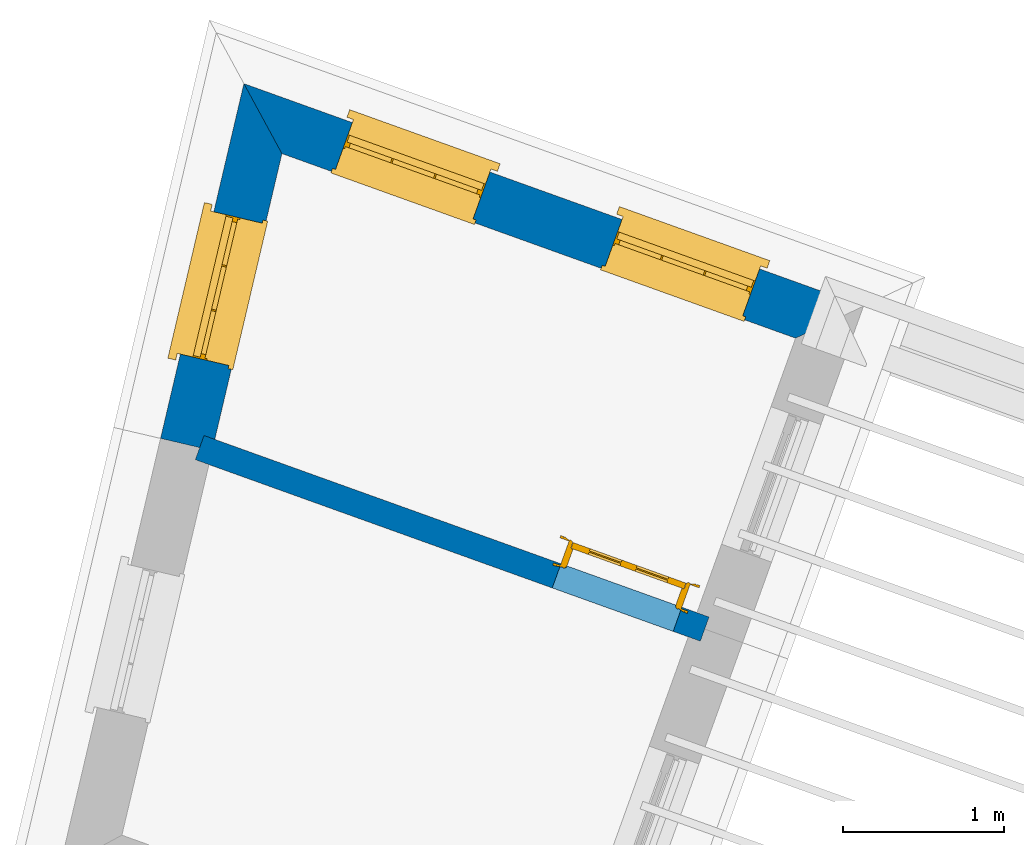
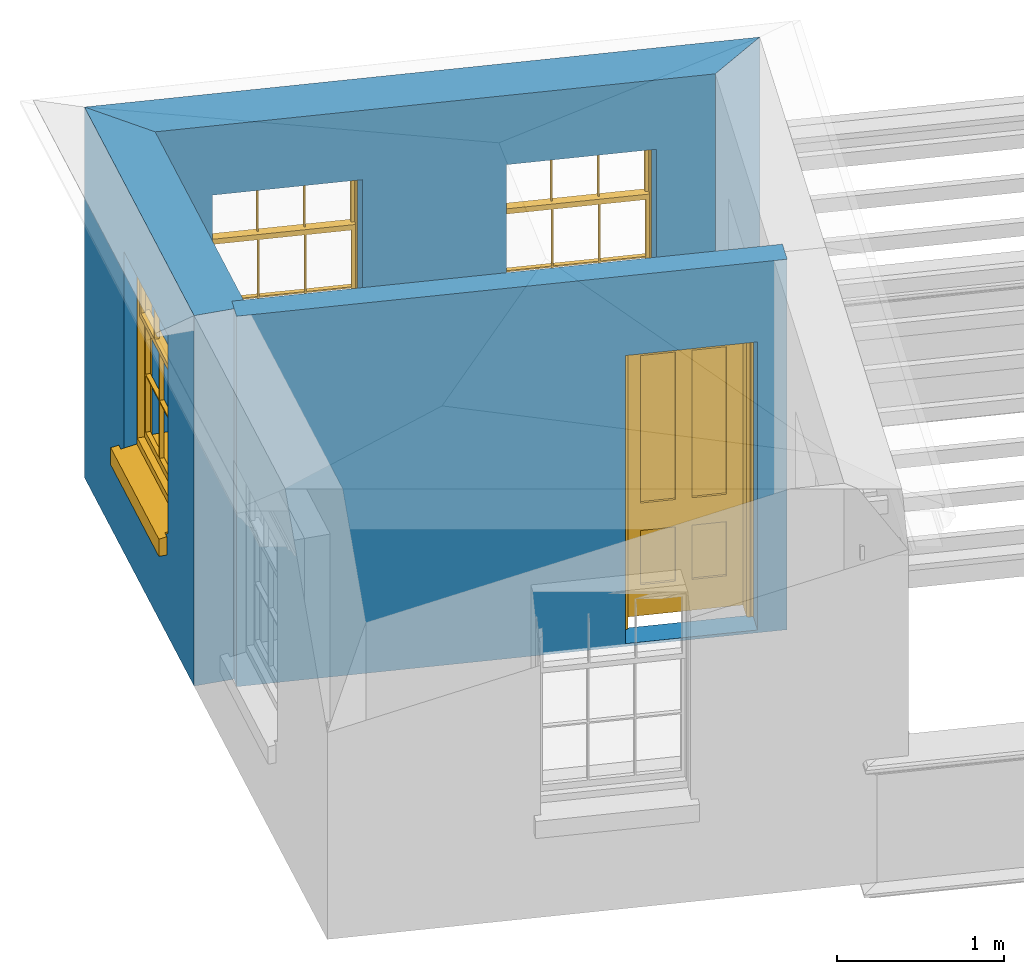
# One storey, part 3 of 5: 3 walls, 3 windows, 1 door, 4 openings.
"""IFC4 building model written with IfcOpenShell, lengths in metres."""

from ifc_helpers import new_model, si_unit, frame, origin, origin_with_axes, place, context, subcontext, project, spatial, polyline, outline, extrude, faceted_brep, source, transform, mapped, material, layer, layer_set, layer_usage, type_object, type_shapes, element, fill, save


model = new_model("IFC4")

# Units and contexts
model_context = context("Model", 3, world=origin_with_axes())
body_context = subcontext(model_context, "Body", "Model", "MODEL_VIEW")
ifc_project = project(units=[si_unit("PLANEANGLEUNIT", "RADIAN"), si_unit("MASSUNIT", "GRAM", prefix="KILO"), si_unit("FORCEUNIT", "NEWTON", prefix="KILO"), si_unit("LENGTHUNIT", "METRE"), si_unit("AREAUNIT", "SQUARE_METRE"), si_unit("VOLUMEUNIT", "CUBIC_METRE")], contexts=[model_context, model_context])

# Sites, building, storey
site_1_placement = place(None, origin_with_axes())
site_1 = spatial("IfcSite", under=ifc_project, at=site_1_placement, Name="Tamar")
site_2_placement = place(site_1_placement, origin_with_axes())
site_2 = spatial("IfcSite", under=site_1, at=site_2_placement, Name="Site plot-22", CompositionType="ELEMENT")
building_placement = place(None, origin_with_axes())
building = spatial("IfcBuilding", under=site_2, at=building_placement, Name="Building plot-22", CompositionType="ELEMENT")
storey_placement = place(None, frame((0.0, 0.0, 30.5), z_axis=(0.0, 0.0, 1.0), x_axis=(1.0, 0.0, 0.0)))
storey = spatial("IfcBuildingStorey", under=building, at=storey_placement, Name="plot-22 2", CompositionType="ELEMENT", Elevation=30.5)

# Wall, openings, windows
ifc_material_1 = material(Name="Masonry")
ifc_layer_1 = layer(ifc_material_1, 0.33, ventilated=False)
ifc_layer_set_1 = layer_set([ifc_layer_1], Name="exterior_0.08_0.25")
ifc_layer_usage_1 = layer_usage(ifc_layer_set_1, "AXIS2", "POSITIVE", -0.25)
wall_type_1 = type_object("IfcWallType", Name="exterior_0.08_0.25", PredefinedType="SOLIDWALL", material=ifc_layer_set_1)
wall_1_placement = place(storey_placement, frame((254.429625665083, 275.023925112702, 0.0), z_axis=(0.0, 0.0, 1.0), x_axis=(-0.941087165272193, 0.338164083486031, 0.0)))
wall_1 = element("IfcWall", 1, at=wall_1_placement, inside=storey, type_object=wall_type_1, material=ifc_layer_usage_1, Name="exterior", context=body_context, shape_type="SweptSolid", body=[
    extrude(outline(polyline([(0.0800000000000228, 0.0800000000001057), (-0.249999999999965, -0.250000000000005), (3.8477904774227, -0.24999999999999), (3.47775004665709, 0.0800000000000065), (0.0800000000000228, 0.0800000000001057)])), origin_with_axes(), (0.0, 0.0, 1.0), 2.7),
])
opening_1_placement = place(wall_1_placement, frame((0.43686420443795, 0.0, 0.75)))
opening_1 = element("IfcOpeningElement", 2, at=opening_1_placement, cuts=wall_1, Name="My Opening", ObjectType="Opening", context=body_context, shape_type="SweptSolid", body=[
    extrude(outline(polyline([(0.0, -0.269999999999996), (0.909999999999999, -0.270000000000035), (0.909999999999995, 1.09999999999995), (-4.27435864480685e-15, 1.09999999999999), (0.0, -0.269999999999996)])), origin_with_axes(), (0.0, 0.0, 1.0), 1.445),
])
opening_2_placement = place(wall_1_placement, frame((2.22059261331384, 0.0, 0.75)))
opening_2 = element("IfcOpeningElement", 3, at=opening_2_placement, cuts=wall_1, Name="My Opening", ObjectType="Opening", context=body_context, shape_type="SweptSolid", body=[
    extrude(outline(polyline([(0.0, -0.269999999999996), (0.909999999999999, -0.270000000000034), (0.909999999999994, 1.09999999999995), (-3.99680288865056e-15, 1.09999999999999), (0.0, -0.269999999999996)])), origin_with_axes(), (0.0, 0.0, 1.0), 1.445),
])
window_type = type_object("IfcWindowType", Name="sash_shorter", PartitioningType="DOUBLE_PANEL_HORIZONTAL", PredefinedType="NOTDEFINED")
shared_shape_1 = source(origin(), body_context, "Body", "Brep", [
    faceted_brep([(0.876875, 0.145, 0.999097), (0.876875, 0.145, 1.411875), (0.9, 0.145, 1.435), (0.033125, 0.145, 1.411875), (0.033125, 0.145, 0.999097), (0.01, 0.145, 1.435), (0.033125, 0.115, 1.411875), (0.01, 0.115, 1.435), (0.033125, 0.115, 0.999097), (0.876875, 0.115, 1.411875), (0.876875, 0.115, 0.999097), (0.9, 0.115, 1.435), (0.033125, 0.145, 0.960972), (0.01, 0.145, 0.960972), (0.033125, 0.145, 0.548195), (0.876875, 0.145, 0.960972), (0.876875, 0.145, 0.548195), (0.9, 0.145, 0.960972), (0.876875, 0.145, 0.538195), (0.876875, 0.145, 0.125417), (0.9, 0.145, 0.077167), (0.033125, 0.145, 0.125417), (0.033125, 0.145, 0.538195), (0.01, 0.145, 0.077167), (0.9, 0.115, 0.960972), (0.01, 0.115, 0.960972), (-0.0425, 0.0, 0.01), (-0.0425, -0.05, 0.001667), (0.0, 0.0, 0.01), (0.9525, 0.0, 0.01), (0.91, 0.0, 0.01), (0.9525, -0.05, 0.001667), (-0.02, 0.33, 0.077167), (0.0, 0.33, 0.077167), (-0.02, 0.36, 0.077167), (0.0, 0.19, 0.077167), (0.01, 0.19, 0.077167), (0.91, 0.19, 0.077167), (0.91, 0.33, 0.077167), (0.9, 0.19, 0.077167), (0.93, 0.33, 0.077167), (0.93, 0.36, 0.077167), (0.01, 0.145, 0.999097), (0.01, 0.175, 0.999097), (0.9, 0.145, 0.999097), (0.9, 0.175, 0.999097), (0.876875, 0.175, 0.125417), (0.876875, 0.175, 0.538195), (0.9, 0.175, 0.077167), (0.876875, 0.175, 0.548195), (0.876875, 0.175, 0.960972), (0.033125, 0.175, 0.125417), (0.01, 0.175, 0.077167), (0.033125, 0.175, 0.538195), (0.033125, 0.175, 0.960972), (0.033125, 0.175, 0.548195), (-0.02, 0.33, 0.052167), (-0.02, 0.36, 0.052167), (0.93, 0.36, 0.052167), (0.93, 0.33, 0.052167), (0.91, 0.33, 0.052167), (0.0, 0.33, 0.052167), (0.91, 0.1, 0.026667), (0.0, 0.1, 0.026667), (-0.0425, -0.05, -0.123333), (0.9525, -0.05, -0.123333), (-0.0425, 0.0, -0.123333), (0.9525, 0.0, -0.123333), (0.01, 0.19, 1.435), (0.9, 0.19, 1.435), (0.0, 0.19, 1.445), (0.91, 0.19, 1.445), (0.01, 0.1, 0.077167), (0.9, 0.1, 0.077167), (0.592292, 0.145, 0.125417), (0.592292, 0.175, 0.125417), (0.317708, 0.175, 0.125417), (0.317708, 0.145, 0.125417), (0.592292, 0.145, 0.548195), (0.317708, 0.145, 0.548195), (0.317708, 0.145, 0.538195), (0.592292, 0.145, 0.538195), (0.592292, 0.175, 0.548195), (0.317708, 0.175, 0.548195), (0.602292, 0.175, 0.548195), (0.602292, 0.145, 0.548195), (0.317708, 0.175, 0.538195), (0.307708, 0.175, 0.125417), (0.307708, 0.175, 0.538195), (0.602292, 0.175, 0.538195), (0.602292, 0.175, 0.125417), (0.592292, 0.175, 0.538195), (0.307708, 0.175, 0.548195), (0.317708, 0.175, 0.960972), (0.307708, 0.175, 0.960972), (0.602292, 0.175, 0.960972), (0.592292, 0.175, 0.960972), (0.307708, 0.145, 0.538195), (0.307708, 0.145, 0.125417), (0.307708, 0.145, 0.548195), (0.307708, 0.145, 0.960972), (0.592292, 0.145, 0.960972), (0.317708, 0.145, 0.960972), (0.602292, 0.145, 0.960972), (0.602292, 0.145, 0.538195), (0.602292, 0.145, 0.125417), (0.317708, 0.115, 1.411875), (0.307708, 0.115, 1.411875), (0.307708, 0.115, 0.999097), (0.317708, 0.115, 0.999097), (0.602292, 0.115, 1.411875), (0.592292, 0.115, 1.411875), (0.592292, 0.115, 0.999097), (0.602292, 0.115, 0.999097), (0.317708, 0.145, 0.999097), (0.307708, 0.145, 0.999097), (0.307708, 0.145, 1.411875), (0.317708, 0.145, 1.411875), (0.602292, 0.145, 0.999097), (0.592292, 0.145, 0.999097), (0.592292, 0.145, 1.411875), (0.602292, 0.145, 1.411875), (0.91, 0.1, 1.445), (0.9, 0.1, 1.435), (0.01, 0.1, 1.435), (0.0, 0.1, 1.445), (0.91, 0.0, 0.0), (0.0, 0.0, 0.0), (0.91, 0.33, 0.0), (0.0, 0.33, 0.0)], [[[0, 1, 2]], [[3, 4, 5]], [[6, 7, 8]], [[9, 10, 11]], [[12, 13, 14]], [[15, 16, 17]], [[18, 19, 20]], [[21, 22, 23]], [[24, 15, 17]], [[13, 12, 25]], [[26, 27, 28]], [[29, 30, 31]], [[32, 33, 34]], [[35, 36, 33]], [[37, 38, 39]], [[40, 41, 38]], [[42, 4, 43]], [[44, 45, 0]], [[46, 47, 48]], [[49, 50, 45]], [[51, 52, 53]], [[54, 55, 43]], [[38, 33, 36, 39]], [[41, 34, 33, 38]], [[56, 32, 34, 57]], [[57, 34, 41, 58]], [[58, 41, 40, 59]], [[57, 58, 60, 61]], [[52, 48, 39, 36]], [[62, 63, 28, 30]], [[27, 31, 30, 28]], [[27, 64, 65, 31]], [[66, 67, 65, 64]], [[2, 5, 68, 69]], [[68, 70, 71, 69]], [[20, 23, 72, 73]], [[73, 72, 63, 62]], [[74, 75, 76, 77]], [[78, 79, 80, 81]], [[78, 82, 83, 79]], [[16, 49, 84, 85]], [[86, 76, 87, 88]], [[89, 90, 75, 91]], [[92, 88, 53, 55]], [[82, 91, 86, 83]], [[93, 83, 92, 94]], [[95, 84, 82, 96]], [[89, 84, 49, 47]], [[97, 88, 87, 98]], [[22, 53, 88, 97]], [[81, 91, 75, 74]], [[80, 86, 91, 81]], [[77, 76, 86, 80]], [[99, 92, 55, 14]], [[100, 94, 92, 99]], [[101, 96, 82, 78]], [[79, 83, 93, 102]], [[85, 84, 95, 103]], [[104, 89, 47, 18]], [[105, 90, 89, 104]], [[104, 18, 16, 85]], [[80, 97, 98, 77]], [[104, 81, 74, 105]], [[103, 101, 78, 85]], [[99, 14, 22, 97]], [[102, 100, 99, 79]], [[106, 107, 108, 109]], [[110, 111, 112, 113]], [[114, 115, 116, 117]], [[118, 119, 120, 121]], [[107, 116, 115, 108]], [[111, 120, 119, 112]], [[109, 114, 117, 106]], [[113, 118, 121, 110]], [[85, 78, 81, 104]], [[84, 89, 91, 82]], [[83, 86, 88, 92]], [[79, 99, 97, 80]], [[109, 112, 119, 114]], [[102, 93, 96, 101]], [[106, 117, 120, 111]], [[98, 87, 51, 21]], [[6, 3, 116, 107]], [[110, 121, 1, 9]], [[19, 46, 90, 105]], [[26, 66, 64, 27]], [[29, 31, 65, 67]], [[25, 24, 112, 109]], [[11, 7, 106, 111]], [[75, 48, 52, 76]], [[43, 45, 96, 93]], [[45, 43, 114, 119]], [[5, 2, 120, 117]], [[24, 25, 102, 101]], [[42, 5, 4]], [[2, 44, 0]], [[49, 45, 48, 47]], [[52, 43, 55, 53]], [[14, 13, 23, 22]], [[20, 17, 16, 18]], [[24, 11, 10]], [[25, 8, 7]], [[8, 4, 3, 6]], [[9, 1, 0, 10]], [[15, 50, 49, 16]], [[18, 47, 46, 19]], [[21, 51, 53, 22]], [[14, 55, 54, 12]], [[44, 2, 69, 45]], [[68, 5, 42, 43]], [[36, 35, 70, 68]], [[39, 69, 71, 37]], [[62, 122, 123, 73]], [[63, 72, 124, 125]], [[8, 108, 115, 4]], [[113, 10, 0, 118]], [[94, 100, 12, 54]], [[17, 20, 73, 24]], [[72, 23, 13, 25]], [[52, 36, 68, 43]], [[69, 39, 48, 45]], [[11, 24, 73, 123]], [[7, 124, 72, 25]], [[23, 77, 98]], [[98, 21, 23]], [[105, 74, 20]], [[20, 19, 105]], [[20, 74, 77, 23]], [[113, 112, 24]], [[24, 10, 113]], [[25, 109, 108]], [[108, 8, 25]], [[110, 9, 11]], [[11, 111, 110]], [[7, 6, 107]], [[107, 106, 7]], [[5, 117, 116]], [[116, 3, 5]], [[121, 120, 2]], [[2, 1, 121]], [[11, 123, 124, 7]], [[122, 125, 124, 123]], [[43, 93, 94]], [[94, 54, 43]], [[96, 45, 95]], [[50, 95, 45]], [[15, 103, 95, 50]], [[48, 75, 90]], [[90, 46, 48]], [[87, 76, 52]], [[52, 51, 87]], [[103, 15, 24]], [[24, 101, 103]], [[100, 102, 25]], [[25, 12, 100]], [[115, 114, 43]], [[43, 4, 115]], [[118, 0, 45]], [[45, 119, 118]], [[71, 70, 125, 122]], [[70, 35, 63, 125]], [[122, 62, 37, 71]], [[126, 67, 66, 127]], [[60, 58, 59]], [[38, 60, 59, 40]], [[61, 56, 57]], [[32, 56, 61, 33]], [[61, 60, 128, 129]], [[62, 60, 38, 37]], [[126, 128, 60, 62]], [[33, 61, 63, 35]], [[61, 129, 127, 63]], [[128, 126, 127, 129]], [[28, 127, 66, 26]], [[63, 127, 28]], [[29, 67, 126, 30]], [[30, 126, 62]]]),
])
type_shapes(window_type, [shared_shape_1])
window_1_placement = place(storey_placement, frame((254.109802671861, 275.425750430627, 0.75), z_axis=(0.0, 0.0, 1.0), x_axis=(-0.856389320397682, 0.307729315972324, 0.0)))
window_1 = element("IfcWindow", 4, at=window_1_placement, inside=storey, type_object=window_type, Name="circulation outside window", OverallHeight=1.445, OverallWidth=0.91, context=body_context, shape_type="MappedRepresentation", body=[
    mapped(shared_shape_1, transform((0.0, 0.0, 0.0), scale=1.0)),
])
fill(opening_1, window_1)
window_2_placement = place(storey_placement, frame((252.431158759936, 276.028943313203, 0.75), z_axis=(0.0, 0.0, 1.0), x_axis=(-0.856389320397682, 0.307729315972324, 0.0)))
window_2 = element("IfcWindow", 5, at=window_2_placement, inside=storey, type_object=window_type, Name="circulation outside window", OverallHeight=1.445, OverallWidth=0.91, context=body_context, shape_type="MappedRepresentation", body=[
    mapped(shared_shape_1, transform((0.0, 0.0, 0.0), scale=1.0)),
])
fill(opening_2, window_2)

# Wall, opening, window
wall_2_placement = place(storey_placement, frame((251.072337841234, 276.230310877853, 0.0), z_axis=(0.0, 0.0, 1.0), x_axis=(-0.228654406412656, -0.973507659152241, 0.0)))
wall_2 = element("IfcWall", 6, at=wall_2_placement, inside=storey, type_object=wall_type_1, material=ifc_layer_usage_1, Name="exterior", context=body_context, shape_type="SweptSolid", body=[
    extrude(outline(polyline([(0.0897067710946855, 0.0800000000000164), (-0.280333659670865, -0.250000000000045), (1.98834659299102, -0.250000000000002), (1.98834659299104, 0.0799999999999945), (0.0897067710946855, 0.0800000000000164)])), origin_with_axes(), (0.0, 0.0, 1.0), 2.7),
])
opening_3_placement = place(wall_2_placement, frame((0.539173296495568, 0.0, 0.75)))
opening_3 = element("IfcOpeningElement", 7, at=opening_3_placement, cuts=wall_2, Name="My Opening", ObjectType="Opening", context=body_context, shape_type="SweptSolid", body=[
    extrude(outline(polyline([(0.0, -0.269999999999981), (0.909999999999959, -0.270000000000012), (0.909999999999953, 1.09999999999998), (-5.77315972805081e-15, 1.10000000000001), (0.0, -0.269999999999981)])), origin_with_axes(), (0.0, 0.0, 1.0), 1.445),
])
window_3_placement = place(storey_placement, frame((250.686206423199, 275.767158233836, 0.75), z_axis=(0.0, 0.0, 1.0), x_axis=(-0.208075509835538, -0.885891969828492, 0.0)))
window_3 = element("IfcWindow", 8, at=window_3_placement, inside=storey, type_object=window_type, Name="circulation outside window", OverallHeight=1.445, OverallWidth=0.91, context=body_context, shape_type="MappedRepresentation", body=[
    mapped(shared_shape_1, transform((0.0, 0.0, 0.0), scale=1.0)),
])
fill(opening_3, window_3)

# Wall, opening, door
ifc_material_2 = material(Name="Masonry")
ifc_layer_2 = layer(ifc_material_2, 0.16, ventilated=False)
ifc_layer_set_2 = layer_set([ifc_layer_2], Name="interior_0.08_0.08")
ifc_layer_usage_2 = layer_usage(ifc_layer_set_2, "AXIS2", "POSITIVE", -0.08)
wall_type_2 = type_object("IfcWallType", Name="interior_0.08_0.08", PredefinedType="SOLIDWALL", material=ifc_layer_set_2)
wall_3_placement = place(storey_placement, frame((250.617693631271, 274.294640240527, 0.0), z_axis=(0.0, 0.0, 1.0), x_axis=(0.94108716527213, -0.338164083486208, 0.0)))
wall_3 = element("IfcWall", 9, at=wall_3_placement, inside=storey, type_object=wall_type_2, material=ifc_layer_usage_2, Name="interior", context=body_context, shape_type="SweptSolid", body=[
    extrude(outline(polyline([(1.72177963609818e-14, 0.0799999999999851), (-1.7209829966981e-14, -0.0799999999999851), (3.34074236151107, -0.0799999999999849), (3.34074236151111, 0.079999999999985), (1.72177963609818e-14, 0.0799999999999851)])), origin_with_axes(), (0.0, 0.0, 1.0), 2.7),
])
opening_4_placement = place(wall_3_placement, frame((2.36074236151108, 0.0, 0.0199999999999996)))
opening_4 = element("IfcOpeningElement", 10, at=opening_4_placement, cuts=wall_3, Name="My Opening", ObjectType="Opening", context=body_context, shape_type="SweptSolid", body=[
    extrude(outline(polyline([(0.0, -0.100000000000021), (0.799999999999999, -0.10000000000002), (0.800000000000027, 1.09999999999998), (2.8421709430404e-14, 1.09999999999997), (0.0, -0.100000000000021)])), origin_with_axes(), (0.0, 0.0, 1.0), 2.1),
])
door_type = type_object("IfcDoorType", Name="door_inside", OperationType="SINGLE_SWING_LEFT", PredefinedType="NOTDEFINED")
shared_shape_2 = source(origin(), body_context, "Body", "Brep", [
    faceted_brep([(0.773, 0.33, 1.895), (0.66, 0.33, 1.895), (0.66, 0.33, 2.073), (0.773, 0.33, 2.073), (0.773, 0.33, 0.82), (0.66, 0.33, 0.82), (0.45, 0.33, 1.895), (0.45, 0.33, 2.073), (0.773, 0.33, 0.62), (0.66, 0.33, 0.62), (0.66, 0.315, 0.82), (0.66, 0.315, 1.895), (0.45, 0.315, 1.895), (0.35, 0.33, 1.895), (0.35, 0.33, 2.073), (0.773, 0.33, 0.225), (0.66, 0.33, 0.225), (0.45, 0.33, 0.62), (0.45, 0.33, 0.82), (0.45, 0.315, 0.82), (0.35, 0.33, 0.82), (0.14, 0.33, 2.073), (0.14, 0.33, 1.895), (0.773, 0.33, 0.0), (0.66, 0.33, 0.0), (0.66, 0.315, 0.225), (0.66, 0.315, 0.62), (0.45, 0.315, 0.62), (0.35, 0.33, 0.62), (0.35, 0.315, 0.82), (0.35, 0.315, 1.895), (0.14, 0.315, 1.895), (0.027, 0.33, 2.073), (0.027, 0.33, 1.895), (0.773, 0.292, 0.0), (0.66, 0.292, 0.0), (0.45, 0.33, 0.0), (0.45, 0.33, 0.225), (0.45, 0.315, 0.225), (0.35, 0.33, 0.225), (0.14, 0.33, 0.82), (0.14, 0.33, 0.62), (0.14, 0.315, 0.82), (0.027, 0.33, 0.82), (0.773, 0.292, 0.225), (0.66, 0.292, 0.225), (0.45, 0.292, 0.0), (0.35, 0.33, 0.0), (0.35, 0.315, 0.225), (0.35, 0.315, 0.62), (0.14, 0.315, 0.62), (0.027, 0.33, 0.62), (0.773, 0.292, 0.62), (0.66, 0.292, 0.62), (0.45, 0.292, 0.225), (0.35, 0.292, 0.0), (0.14, 0.33, 0.225), (0.14, 0.33, 0.0), (0.14, 0.315, 0.225), (0.027, 0.33, 0.225), (0.773, 0.292, 0.82), (0.66, 0.292, 0.82), (0.66, 0.307, 0.62), (0.66, 0.307, 0.225), (0.45, 0.307, 0.225), (0.35, 0.292, 0.225), (0.14, 0.292, 0.0), (0.027, 0.33, 0.0), (0.773, 0.292, 1.895), (0.66, 0.292, 1.895), (0.45, 0.292, 0.62), (0.45, 0.292, 0.82), (0.45, 0.307, 0.62), (0.35, 0.292, 0.62), (0.14, 0.292, 0.225), (0.027, 0.292, 0.0), (0.773, 0.292, 2.073), (0.66, 0.292, 2.073), (0.66, 0.307, 1.895), (0.66, 0.307, 0.82), (0.45, 0.307, 0.82), (0.35, 0.292, 0.82), (0.35, 0.307, 0.62), (0.35, 0.307, 0.225), (0.14, 0.307, 0.225), (0.027, 0.292, 0.225), (0.45, 0.292, 1.895), (0.45, 0.292, 2.073), (0.45, 0.307, 1.895), (0.35, 0.292, 1.895), (0.14, 0.292, 0.82), (0.14, 0.292, 0.62), (0.14, 0.307, 0.62), (0.027, 0.292, 0.62), (0.35, 0.292, 2.073), (0.35, 0.307, 1.895), (0.35, 0.307, 0.82), (0.14, 0.307, 0.82), (0.027, 0.292, 0.82), (0.14, 0.292, 2.073), (0.14, 0.292, 1.895), (0.14, 0.307, 1.895), (0.027, 0.292, 1.895), (0.027, 0.292, 2.073), (0.02, 0.335, 0.0), (0.005, 0.34, 0.0), (0.005, 0.34, 2.095), (0.02, 0.335, 2.08), (0.02, 0.33, 0.0), (0.0, 0.335, 0.0), (0.0, 0.335, 2.1), (0.795, 0.34, 2.095), (0.78, 0.335, 2.08), (0.02, 0.33, 2.08), (0.0, 0.33, 0.0), (-0.032, 0.345, 0.0), (-0.032, 0.345, 2.132), (0.8, 0.335, 2.1), (0.795, 0.34, 0.0), (0.78, 0.335, 0.0), (0.78, 0.33, 2.08), (0.04, 0.29, 0.0), (0.025, 0.29, 0.0), (0.025, 0.29, 2.075), (0.04, 0.29, 2.06), (-0.04, 0.34, 0.0), (-0.04, 0.34, 2.14), (0.832, 0.345, 2.132), (0.8, 0.335, 0.0), (0.78, 0.33, 0.0), (0.8, 0.33, 0.0), (0.86, 0.33, 0.0), (0.86, 0.33, 2.16), (0.8, 0.33, 2.1), (-0.06, 0.33, 2.16), (0.0, 0.33, 2.1), (-0.06, 0.33, 0.0), (-0.04, 0.345, 0.0), (-0.04, 0.345, 2.14), (0.84, 0.34, 2.14), (0.832, 0.345, 0.0), (0.84, 0.34, 0.0), (0.86, 0.345, 0.0), (0.86, 0.345, 2.16), (-0.06, 0.345, 2.16), (-0.06, 0.345, 0.0), (0.84, 0.345, 0.0), (0.84, 0.345, 2.14), (-0.025, 0.155, 0.0), (-0.025, 0.16, 0.0), (-0.025, 0.16, 2.125), (-0.025, 0.155, 2.125), (-0.017, 0.155, 0.0), (-0.017, 0.155, 2.117), (0.825, 0.16, 2.125), (0.825, 0.155, 2.125), (0.825, 0.155, 0.0), (0.845, 0.155, 0.0), (-0.045, 0.155, 2.145), (-0.045, 0.155, 0.0), (0.845, 0.155, 2.145), (0.015, 0.165, 0.0), (0.015, 0.165, 2.085), (0.817, 0.155, 2.117), (0.825, 0.16, 0.0), (0.845, 0.17, 0.0), (0.845, 0.17, 2.145), (-0.045, 0.17, 2.145), (-0.045, 0.17, 0.0), (0.02, 0.16, 0.0), (0.02, 0.16, 2.08), (0.785, 0.165, 2.085), (0.817, 0.155, 0.0), (0.8, 0.17, 0.0), (0.8, 0.17, 2.1), (0.0, 0.17, 2.1), (0.0, 0.17, 0.0), (0.035, 0.165, 0.0), (0.035, 0.165, 2.065), (0.78, 0.16, 2.08), (0.785, 0.165, 0.0), (0.775, 0.29, 2.075), (0.76, 0.29, 2.06), (0.035, 0.17, 2.065), (0.035, 0.17, 0.0), (0.765, 0.165, 2.065), (0.78, 0.16, 0.0), (0.765, 0.17, 0.0), (0.765, 0.17, 2.065), (0.765, 0.165, 0.0), (0.04, 0.17, 2.06), (0.04, 0.17, 0.0), (0.76, 0.17, 2.06), (0.76, 0.17, 0.0), (0.76, 0.29, 0.0), (0.775, 0.29, 0.0), (0.025, 0.33, 0.0), (0.025, 0.33, 2.075), (0.775, 0.33, 0.0), (0.775, 0.33, 2.075)], [[[0, 1, 2, 3]], [[1, 0, 4, 5]], [[1, 6, 7, 2]], [[8, 9, 5, 4]], [[1, 5, 10, 11]], [[6, 1, 11, 12]], [[6, 13, 14, 7]], [[15, 16, 9, 8]], [[9, 17, 18, 5]], [[5, 18, 19, 10]], [[10, 19, 12, 11]], [[18, 6, 12, 19]], [[18, 20, 13, 6]], [[21, 14, 13, 22]], [[23, 24, 16, 15]], [[9, 16, 25, 26]], [[17, 9, 26, 27]], [[17, 28, 20, 18]], [[13, 20, 29, 30]], [[22, 13, 30, 31]], [[32, 21, 22, 33]], [[34, 35, 24, 23]], [[24, 36, 37, 16]], [[16, 37, 38, 25]], [[25, 38, 27, 26]], [[37, 17, 27, 38]], [[37, 39, 28, 17]], [[40, 20, 28, 41]], [[20, 40, 42, 29]], [[31, 30, 29, 42]], [[40, 22, 31, 42]], [[33, 22, 40, 43]], [[35, 34, 44, 45]], [[35, 46, 36, 24]], [[36, 47, 39, 37]], [[28, 39, 48, 49]], [[41, 28, 49, 50]], [[43, 40, 41, 51]], [[45, 44, 52, 53]], [[46, 35, 45, 54]], [[46, 55, 47, 36]], [[56, 39, 47, 57]], [[39, 56, 58, 48]], [[50, 49, 48, 58]], [[56, 41, 50, 58]], [[51, 41, 56, 59]], [[53, 52, 60, 61]], [[45, 53, 62, 63]], [[54, 45, 63, 64]], [[55, 46, 54, 65]], [[55, 66, 57, 47]], [[59, 56, 57, 67]], [[61, 60, 68, 69]], [[70, 53, 61, 71]], [[53, 70, 72, 62]], [[72, 64, 63, 62]], [[70, 54, 64, 72]], [[65, 54, 70, 73]], [[65, 74, 66, 55]], [[67, 57, 66, 75]], [[69, 68, 76, 77]], [[61, 69, 78, 79]], [[71, 61, 79, 80]], [[73, 70, 71, 81]], [[65, 73, 82, 83]], [[74, 65, 83, 84]], [[74, 85, 75, 66]], [[86, 69, 77, 87]], [[69, 86, 88, 78]], [[88, 80, 79, 78]], [[86, 71, 80, 88]], [[81, 71, 86, 89]], [[73, 81, 90, 91]], [[73, 91, 92, 82]], [[83, 82, 92, 84]], [[91, 74, 84, 92]], [[91, 93, 85, 74]], [[89, 86, 87, 94]], [[81, 89, 95, 96]], [[90, 81, 96, 97]], [[90, 98, 93, 91]], [[94, 99, 100, 89]], [[89, 100, 101, 95]], [[101, 97, 96, 95]], [[100, 90, 97, 101]], [[100, 102, 98, 90]], [[99, 103, 102, 100]], [[32, 103, 99, 21]], [[102, 103, 32, 33]], [[98, 102, 33, 43]], [[21, 99, 94, 14]], [[94, 87, 7, 14]], [[7, 87, 77, 2]], [[76, 3, 2, 77]], [[43, 51, 93, 98]], [[51, 59, 85, 93]], [[67, 75, 85, 59]], [[34, 23, 15, 44]], [[44, 15, 8, 52]], [[52, 8, 4, 60]], [[0, 68, 60, 4]], [[0, 3, 76, 68]], [[104, 105, 106, 107]], [[104, 108, 109, 105]], [[105, 109, 110, 106]], [[107, 106, 111, 112]], [[107, 113, 108, 104]], [[114, 109, 108]], [[109, 115, 116, 110]], [[106, 110, 117, 111]], [[112, 111, 118, 119]], [[113, 107, 112, 120]], [[121, 122, 123, 124]], [[115, 109, 114, 125]], [[115, 125, 126, 116]], [[110, 116, 127, 117]], [[111, 117, 128, 118]], [[118, 128, 129, 119]], [[120, 112, 119, 129]], [[130, 129, 128]], [[130, 131, 132, 133]], [[133, 132, 134, 135]], [[135, 134, 136, 114]], [[136, 125, 114]], [[125, 137, 138, 126]], [[116, 126, 139, 127]], [[117, 127, 140, 128]], [[141, 130, 128, 140]], [[131, 130, 141]], [[131, 142, 143, 132]], [[132, 143, 144, 134]], [[134, 144, 145, 136]], [[137, 125, 136, 145]], [[143, 142, 146]], [[143, 146, 147]], [[137, 145, 144]], [[143, 147, 138]], [[138, 137, 144]], [[143, 138, 144]], [[126, 138, 147, 139]], [[127, 139, 141, 140]], [[142, 131, 141, 146]], [[139, 147, 146, 141]], [[148, 149, 150, 151]], [[149, 152, 153, 150]], [[151, 150, 154, 155]], [[155, 156, 157]], [[158, 159, 148]], [[158, 148, 151]], [[155, 157, 160]], [[158, 151, 155]], [[155, 160, 158]], [[152, 161, 162, 153]], [[150, 153, 163, 154]], [[155, 154, 164, 156]], [[156, 164, 165, 157]], [[157, 165, 166, 160]], [[160, 166, 167, 158]], [[158, 167, 168, 159]], [[161, 169, 170, 162]], [[153, 162, 171, 163]], [[154, 163, 172, 164]], [[165, 164, 173]], [[165, 173, 174, 166]], [[166, 174, 175, 167]], [[167, 175, 176, 168]], [[169, 177, 178, 170]], [[162, 170, 179, 171]], [[163, 171, 180, 172]], [[172, 180, 173, 164]], [[124, 123, 181, 182]], [[183, 178, 177, 184]], [[170, 178, 185, 179]], [[171, 179, 186, 180]], [[187, 173, 180]], [[185, 188, 187, 189]], [[188, 185, 178, 183]], [[179, 185, 189, 186]], [[189, 187, 180, 186]], [[190, 183, 184, 191]], [[192, 188, 183, 190]], [[191, 184, 122, 121]], [[124, 190, 191, 121]], [[193, 187, 188, 192]], [[182, 192, 190, 124]], [[184, 176, 122]], [[194, 195, 187, 193]], [[192, 182, 194, 193]], [[161, 176, 184]], [[114, 108, 122, 176]], [[173, 187, 195]], [[152, 149, 176, 161]], [[169, 161, 184, 177]], [[196, 122, 108]], [[176, 175, 135, 114]], [[173, 195, 129, 130]], [[176, 149, 168]], [[123, 122, 196, 197]], [[196, 108, 113, 197]], [[175, 174, 133, 135]], [[198, 129, 195]], [[133, 174, 173, 130]], [[159, 168, 149, 148]], [[181, 123, 197, 199]], [[197, 113, 120, 199]], [[199, 120, 129, 198]], [[195, 181, 199, 198]], [[195, 194, 182, 181]]]),
])
type_shapes(door_type, [shared_shape_2])
door_placement = place(storey_placement, frame((252.805541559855, 273.402213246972, 0.0199999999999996), z_axis=(0.0, 0.0, 1.0), x_axis=(0.752869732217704, -0.270531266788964, 0.0)))
door = element("IfcDoor", 11, at=door_placement, inside=storey, type_object=door_type, Name="bedroom inside door", OverallHeight=2.1, OverallWidth=0.8, context=body_context, shape_type="MappedRepresentation", body=[
    mapped(shared_shape_2, transform((0.0, 0.0, 0.0), scale=1.0)),
])
fill(opening_4, door)

save(model, "model.ifc")
